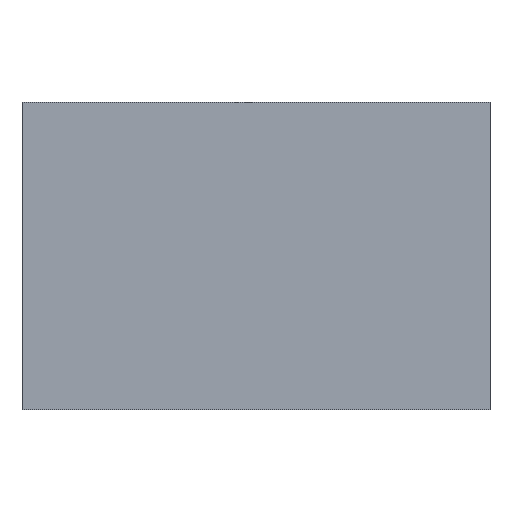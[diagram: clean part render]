
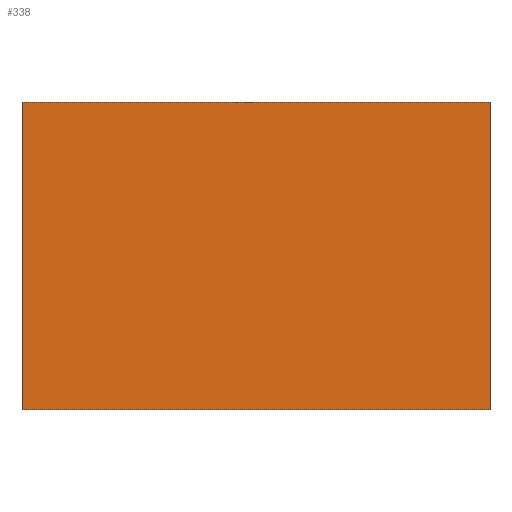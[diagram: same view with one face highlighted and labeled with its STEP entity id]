
A CAD part, top view. The second image highlights one B-rep face of the part: STEP entity #338.
In plain terms, the highlighted planar face has unit normal (0, 0, 1).
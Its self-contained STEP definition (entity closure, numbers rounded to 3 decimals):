
#24 = VERTEX_POINT('',#25);
#25 = CARTESIAN_POINT('',(-16.,-10.5,1.6));
#32 = PLANE('',#33);
#33 = AXIS2_PLACEMENT_3D('',#34,#35,#36);
#34 = CARTESIAN_POINT('',(-16.,-10.5,0.));
#35 = DIRECTION('',(1.,0.,0.));
#36 = DIRECTION('',(0.,0.,1.));
#44 = PLANE('',#45);
#45 = AXIS2_PLACEMENT_3D('',#46,#47,#48);
#46 = CARTESIAN_POINT('',(-16.,-10.5,0.));
#47 = DIRECTION('',(0.,1.,0.));
#48 = DIRECTION('',(0.,0.,1.));
#85 = VERTEX_POINT('',#86);
#86 = CARTESIAN_POINT('',(-16.,10.5,1.6));
#100 = PLANE('',#101);
#101 = AXIS2_PLACEMENT_3D('',#102,#103,#104);
#102 = CARTESIAN_POINT('',(-16.,10.5,0.));
#103 = DIRECTION('',(0.,1.,0.));
#104 = DIRECTION('',(0.,0.,1.));
#112 = EDGE_CURVE('',#24,#85,#113,.T.);
#113 = SURFACE_CURVE('',#114,(#118,#125),.PCURVE_S1.);
#114 = LINE('',#115,#116);
#115 = CARTESIAN_POINT('',(-16.,-10.5,1.6));
#116 = VECTOR('',#117,1.);
#117 = DIRECTION('',(0.,1.,0.));
#118 = PCURVE('',#32,#119);
#119 = DEFINITIONAL_REPRESENTATION('',(#120),#124);
#120 = LINE('',#121,#122);
#121 = CARTESIAN_POINT('',(1.6,0.));
#122 = VECTOR('',#123,1.);
#123 = DIRECTION('',(0.,-1.));
#124 = ( GEOMETRIC_REPRESENTATION_CONTEXT(2) 
PARAMETRIC_REPRESENTATION_CONTEXT() REPRESENTATION_CONTEXT('2D SPACE',''
  ) );
#125 = PCURVE('',#126,#131);
#126 = PLANE('',#127);
#127 = AXIS2_PLACEMENT_3D('',#128,#129,#130);
#128 = CARTESIAN_POINT('',(-16.,-10.5,1.6));
#129 = DIRECTION('',(0.,0.,1.));
#130 = DIRECTION('',(1.,0.,0.));
#131 = DEFINITIONAL_REPRESENTATION('',(#132),#136);
#132 = LINE('',#133,#134);
#133 = CARTESIAN_POINT('',(0.,0.));
#134 = VECTOR('',#135,1.);
#135 = DIRECTION('',(0.,1.));
#136 = ( GEOMETRIC_REPRESENTATION_CONTEXT(2) 
PARAMETRIC_REPRESENTATION_CONTEXT() REPRESENTATION_CONTEXT('2D SPACE',''
  ) );
#144 = VERTEX_POINT('',#145);
#145 = CARTESIAN_POINT('',(16.,-10.5,1.6));
#152 = PLANE('',#153);
#153 = AXIS2_PLACEMENT_3D('',#154,#155,#156);
#154 = CARTESIAN_POINT('',(16.,-10.5,0.));
#155 = DIRECTION('',(1.,0.,0.));
#156 = DIRECTION('',(0.,0.,1.));
#195 = VERTEX_POINT('',#196);
#196 = CARTESIAN_POINT('',(16.,10.5,1.6));
#217 = EDGE_CURVE('',#144,#195,#218,.T.);
#218 = SURFACE_CURVE('',#219,(#223,#230),.PCURVE_S1.);
#219 = LINE('',#220,#221);
#220 = CARTESIAN_POINT('',(16.,-10.5,1.6));
#221 = VECTOR('',#222,1.);
#222 = DIRECTION('',(0.,1.,0.));
#223 = PCURVE('',#152,#224);
#224 = DEFINITIONAL_REPRESENTATION('',(#225),#229);
#225 = LINE('',#226,#227);
#226 = CARTESIAN_POINT('',(1.6,0.));
#227 = VECTOR('',#228,1.);
#228 = DIRECTION('',(0.,-1.));
#229 = ( GEOMETRIC_REPRESENTATION_CONTEXT(2) 
PARAMETRIC_REPRESENTATION_CONTEXT() REPRESENTATION_CONTEXT('2D SPACE',''
  ) );
#230 = PCURVE('',#126,#231);
#231 = DEFINITIONAL_REPRESENTATION('',(#232),#236);
#232 = LINE('',#233,#234);
#233 = CARTESIAN_POINT('',(32.,0.));
#234 = VECTOR('',#235,1.);
#235 = DIRECTION('',(0.,1.));
#236 = ( GEOMETRIC_REPRESENTATION_CONTEXT(2) 
PARAMETRIC_REPRESENTATION_CONTEXT() REPRESENTATION_CONTEXT('2D SPACE',''
  ) );
#263 = EDGE_CURVE('',#24,#144,#264,.T.);
#264 = SURFACE_CURVE('',#265,(#269,#276),.PCURVE_S1.);
#265 = LINE('',#266,#267);
#266 = CARTESIAN_POINT('',(-16.,-10.5,1.6));
#267 = VECTOR('',#268,1.);
#268 = DIRECTION('',(1.,0.,0.));
#269 = PCURVE('',#44,#270);
#270 = DEFINITIONAL_REPRESENTATION('',(#271),#275);
#271 = LINE('',#272,#273);
#272 = CARTESIAN_POINT('',(1.6,0.));
#273 = VECTOR('',#274,1.);
#274 = DIRECTION('',(0.,1.));
#275 = ( GEOMETRIC_REPRESENTATION_CONTEXT(2) 
PARAMETRIC_REPRESENTATION_CONTEXT() REPRESENTATION_CONTEXT('2D SPACE',''
  ) );
#276 = PCURVE('',#126,#277);
#277 = DEFINITIONAL_REPRESENTATION('',(#278),#282);
#278 = LINE('',#279,#280);
#279 = CARTESIAN_POINT('',(0.,0.));
#280 = VECTOR('',#281,1.);
#281 = DIRECTION('',(1.,0.));
#282 = ( GEOMETRIC_REPRESENTATION_CONTEXT(2) 
PARAMETRIC_REPRESENTATION_CONTEXT() REPRESENTATION_CONTEXT('2D SPACE',''
  ) );
#310 = EDGE_CURVE('',#85,#195,#311,.T.);
#311 = SURFACE_CURVE('',#312,(#316,#323),.PCURVE_S1.);
#312 = LINE('',#313,#314);
#313 = CARTESIAN_POINT('',(-16.,10.5,1.6));
#314 = VECTOR('',#315,1.);
#315 = DIRECTION('',(1.,0.,0.));
#316 = PCURVE('',#100,#317);
#317 = DEFINITIONAL_REPRESENTATION('',(#318),#322);
#318 = LINE('',#319,#320);
#319 = CARTESIAN_POINT('',(1.6,0.));
#320 = VECTOR('',#321,1.);
#321 = DIRECTION('',(0.,1.));
#322 = ( GEOMETRIC_REPRESENTATION_CONTEXT(2) 
PARAMETRIC_REPRESENTATION_CONTEXT() REPRESENTATION_CONTEXT('2D SPACE',''
  ) );
#323 = PCURVE('',#126,#324);
#324 = DEFINITIONAL_REPRESENTATION('',(#325),#329);
#325 = LINE('',#326,#327);
#326 = CARTESIAN_POINT('',(0.,21.));
#327 = VECTOR('',#328,1.);
#328 = DIRECTION('',(1.,0.));
#329 = ( GEOMETRIC_REPRESENTATION_CONTEXT(2) 
PARAMETRIC_REPRESENTATION_CONTEXT() REPRESENTATION_CONTEXT('2D SPACE',''
  ) );
#338 = ADVANCED_FACE('',(#339),#126,.T.);
#339 = FACE_BOUND('',#340,.T.);
#340 = EDGE_LOOP('',(#341,#342,#343,#344));
#341 = ORIENTED_EDGE('',*,*,#112,.F.);
#342 = ORIENTED_EDGE('',*,*,#263,.T.);
#343 = ORIENTED_EDGE('',*,*,#217,.T.);
#344 = ORIENTED_EDGE('',*,*,#310,.F.);
